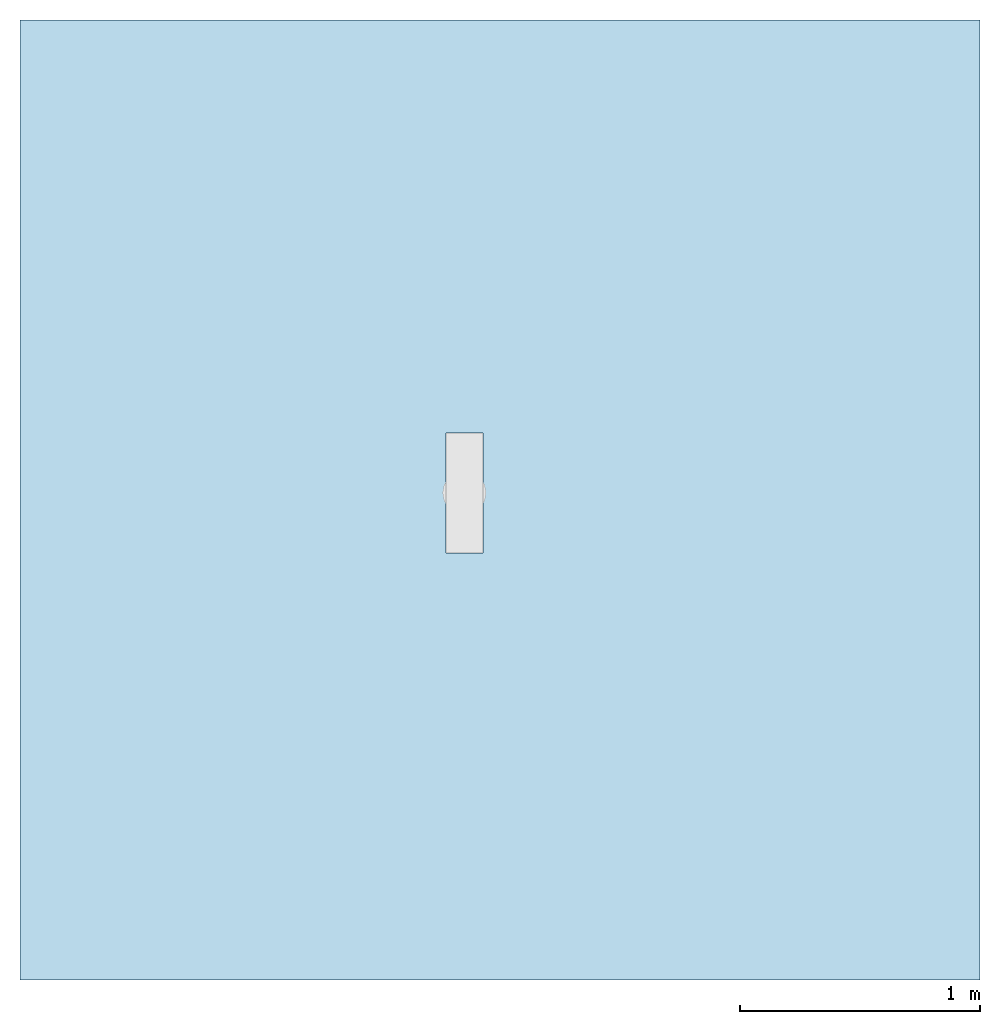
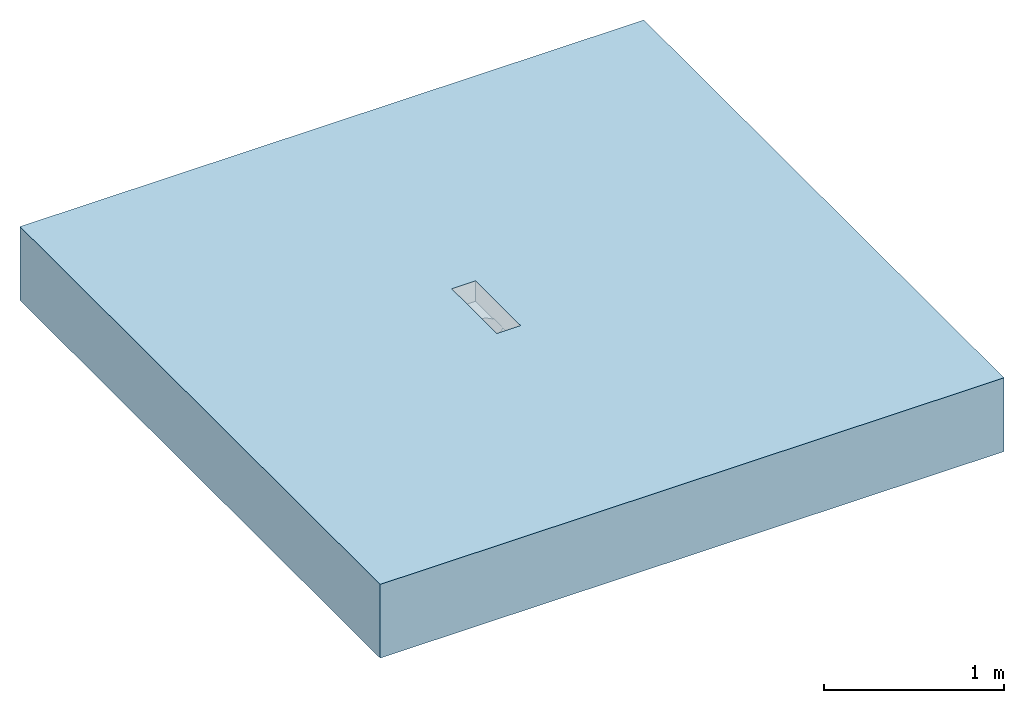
# One storey, incomplete: 1 slab, 1 opening.
"""IFC2X3 building model written with IfcOpenShell, lengths in millimetres."""

from ifc_helpers import new_model, entity, si_unit, converted_unit, direction, frame, frame_2d, origin, place, context, subcontext, project, spatial, rectangle, extrude, faceted_brep, material, layer, layer_set, layer_usage, element, save


model = new_model("IFC2X3")

# Units and contexts
model_context = context("Model", 3, precision=1e-06, world=origin(), true_north=direction((2.0, 6.12303176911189e-17, 1.0)))
context_of_model = context(None, 3, precision=1e-06, world=origin(), true_north=direction((2.0, 6.12303176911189e-17, 1.0)))
body_context = subcontext(model_context, "Body", "Model", "MODEL_VIEW")
ifc_project = project(units=[si_unit("LENGTHUNIT", "METRE", prefix="MILLI"), si_unit("AREAUNIT", "SQUARE_METRE", prefix="MILLI"), si_unit("VOLUMEUNIT", "CUBIC_METRE", prefix="MILLI"), converted_unit("PLANEANGLEUNIT", "DEGREE", entity("IfcRatioMeasure", 0.0174532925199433), si_unit("PLANEANGLEUNIT", "RADIAN"), dimensions=[0, 0, 0, 0, 0, 0, 0]), si_unit("TIMEUNIT", "SECOND")], contexts=[model_context, context_of_model])

# Site, building, storey
site_placement = place(None, origin())
site = spatial("IfcSite", under=ifc_project, at=site_placement, Name="Default", CompositionType="ELEMENT")
building_placement = place(site_placement, origin())
building = spatial("IfcBuilding", under=site, at=building_placement, CompositionType="ELEMENT")
storey_placement = place(building_placement, origin())
storey = spatial("IfcBuildingStorey", under=building, at=storey_placement, Name="Level 1", CompositionType="ELEMENT", Elevation=0.0)

# Slab, opening
ifc_material = material(Name="Concrete, Broom Finish")
ifc_layer = layer(ifc_material, 500.0)
ifc_layer_set = layer_set([ifc_layer], Name="Floor:Generic Floor - 500mm")
ifc_layer_usage = layer_usage(ifc_layer_set, "AXIS3", "POSITIVE", 0.0)
slab_placement = place(storey_placement, origin())
slab = element("IfcSlab", 1, at=slab_placement, inside=storey, material=ifc_layer_usage, Name="Floor:Generic Floor - 500mm", ObjectType="Floor:Generic Floor - 500mm", PredefinedType="FLOOR", context=body_context, shape_type="SweptSolid", body=[
    extrude(rectangle(XDim=4000.0, YDim=4000.0, at=frame_2d((0.0, 0.0), x_axis=(-1.0, 0.0))), frame((-419.114478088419, -735.273497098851, 0.0), z_axis=(0.0, 0.0, -1.0), x_axis=(-1.0, 0.0, 0.0)), (0.0, 0.0, 1.0), 500.0),
])
opening_placement = place(slab_placement, frame((-660.083679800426, -955.371403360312, -402.0)))
element("IfcOpeningElement", 2, at=opening_placement, cuts=slab, ObjectType="Recess", context=body_context, shape_type="Brep", body=[
    faceted_brep([(181.93744767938, 232.709086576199, 269.0), (177.04778664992, 216.106448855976, 269.0), (169.095272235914, 200.717650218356, 269.0), (169.095272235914, 299.282349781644, 269.0), (177.04778664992, 283.893551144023, 269.0), (181.93744767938, 267.2909134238, 269.0), (183.595272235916, 250.0, 269.0), (8.14072230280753, 216.111521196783, 269.0), (3.25334780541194, 232.707789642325, 269.0), (16.0952722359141, 200.717650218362, 269.0), (8.14072230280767, 283.888478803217, 269.0), (1.59527223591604, 250.0, 269.0), (3.25334780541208, 267.292210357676, 269.0), (16.0952722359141, 299.282349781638, 269.0), (16.0952722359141, 500.0, 264.200000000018), (16.0952722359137, 299.282349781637, 264.200000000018), (30.641113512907, 316.653448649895, 264.200000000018), (169.095272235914, 500.0, 264.200000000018), (136.163070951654, 329.892721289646, 264.200000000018), (154.549430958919, 316.653448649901, 264.200000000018), (169.095272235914, 299.282349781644, 264.200000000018), (70.1145876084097, 338.179469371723, 264.200000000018), (49.0274735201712, 329.892721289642, 264.200000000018), (92.595272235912, 341.0, 264.200000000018), (115.075956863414, 338.179469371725, 264.200000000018), (92.595272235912, 159.0, 264.200000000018), (70.1145876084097, 161.820530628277, 264.200000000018), (16.0952722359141, 0.0, 264.200000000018), (49.0274735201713, 170.107278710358, 264.200000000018), (115.075956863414, 161.820530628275, 264.200000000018), (169.095272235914, 0.0, 264.200000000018), (136.163070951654, 170.107278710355, 264.200000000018), (30.641113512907, 183.346551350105, 264.200000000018), (16.0952722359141, 200.717650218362, 264.200000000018), (169.095272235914, 200.717650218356, 264.200000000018), (154.549430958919, 183.346551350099, 264.200000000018), (16.0952722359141, 0.0, 402.0), (169.095272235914, 0.0, 402.0), (169.095272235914, 500.0, 402.0), (16.0952722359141, 500.0, 402.0), (92.5952722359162, 341.0, 0.0), (69.0427391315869, 337.899250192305, 0.0), (116.147805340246, 337.899250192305, 0.0), (138.095272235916, 328.808311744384, 0.0), (156.941989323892, 314.346717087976, 0.0), (171.4035839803, 295.5, 0.0), (13.786960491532, 204.5, 0.0), (13.7869604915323, 295.5, 0.0), (47.0952722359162, 328.808311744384, 0.0), (28.2485551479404, 314.346717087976, 0.0), (4.69602204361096, 273.55253310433, 0.0), (1.59527223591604, 250.0, 0.0), (180.494522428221, 273.552533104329, 0.0), (180.494522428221, 226.44746689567, 0.0), (183.595272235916, 250.0, 0.0), (156.941989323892, 185.653282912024, 0.0), (171.4035839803, 204.5, 0.0), (116.147805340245, 162.100749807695, 0.0), (138.095272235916, 171.191688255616, 0.0), (69.0427391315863, 162.100749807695, 0.0), (28.24855514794, 185.653282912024, 0.0), (4.69602204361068, 226.447466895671, 0.0), (47.0952722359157, 171.191688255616, 0.0), (92.5952722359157, 159.0, 0.0)], [[[0, 1, 2]], [[3, 0, 2]], [[4, 5, 6]], [[4, 0, 3]], [[6, 0, 4]], [[7, 8, 9]], [[10, 9, 8]], [[8, 11, 10]], [[10, 11, 12]], [[13, 9, 10]], [[14, 15, 16]], [[17, 18, 19]], [[17, 19, 20]], [[21, 14, 22]], [[16, 22, 14]], [[23, 14, 21]], [[17, 23, 24]], [[14, 23, 17]], [[18, 17, 24]], [[25, 26, 27]], [[28, 27, 26]], [[29, 25, 30]], [[27, 30, 25]], [[31, 29, 30]], [[27, 28, 32]], [[27, 32, 33]], [[30, 34, 35]], [[30, 35, 31]], [[36, 37, 30]], [[30, 27, 36]], [[38, 39, 14]], [[14, 17, 38]], [[38, 37, 36]], [[36, 39, 38]], [[27, 9, 36]], [[39, 36, 9]], [[9, 27, 33]], [[14, 39, 13]], [[9, 13, 39]], [[13, 15, 14]], [[2, 34, 30]], [[38, 2, 37]], [[30, 37, 2]], [[3, 17, 20]], [[2, 38, 3]], [[17, 3, 38]], [[40, 41, 42]], [[43, 42, 44]], [[41, 45, 42]], [[44, 42, 45]], [[46, 45, 47]], [[48, 49, 41]], [[47, 41, 49]], [[50, 51, 47]], [[45, 41, 47]], [[51, 46, 47]], [[46, 52, 45]], [[53, 54, 55]], [[56, 53, 55]], [[57, 58, 55]], [[59, 55, 54]], [[57, 55, 59]], [[46, 60, 54]], [[46, 51, 61]], [[62, 59, 60]], [[54, 60, 59]], [[59, 63, 57]], [[54, 52, 46]], [[61, 51, 8]], [[61, 7, 46]], [[28, 59, 62]], [[62, 60, 32]], [[60, 46, 33]], [[63, 59, 26]], [[11, 8, 51]], [[7, 33, 46]], [[7, 61, 8]], [[7, 9, 33]], [[32, 60, 33]], [[62, 32, 28]], [[28, 26, 59]], [[26, 25, 63]], [[29, 63, 25]], [[57, 63, 29]], [[57, 31, 58]], [[1, 53, 56]], [[56, 55, 34]], [[55, 58, 35]], [[54, 53, 0]], [[31, 57, 29]], [[35, 58, 31]], [[35, 34, 55]], [[1, 34, 2]], [[1, 56, 34]], [[53, 1, 0]], [[0, 6, 54]], [[45, 52, 4]], [[5, 52, 54]], [[18, 42, 43]], [[44, 19, 43]], [[20, 44, 45]], [[40, 42, 24]], [[3, 20, 4]], [[52, 5, 4]], [[5, 54, 6]], [[4, 20, 45]], [[19, 44, 20]], [[43, 19, 18]], [[18, 24, 42]], [[24, 23, 40]], [[21, 40, 23]], [[41, 40, 21]], [[41, 22, 48]], [[10, 50, 47]], [[47, 49, 15]], [[49, 48, 16]], [[51, 50, 12]], [[22, 41, 21]], [[16, 48, 22]], [[16, 15, 49]], [[10, 15, 13]], [[10, 47, 15]], [[50, 10, 12]], [[12, 11, 51]]]),
])

save(model, "model.ifc")
